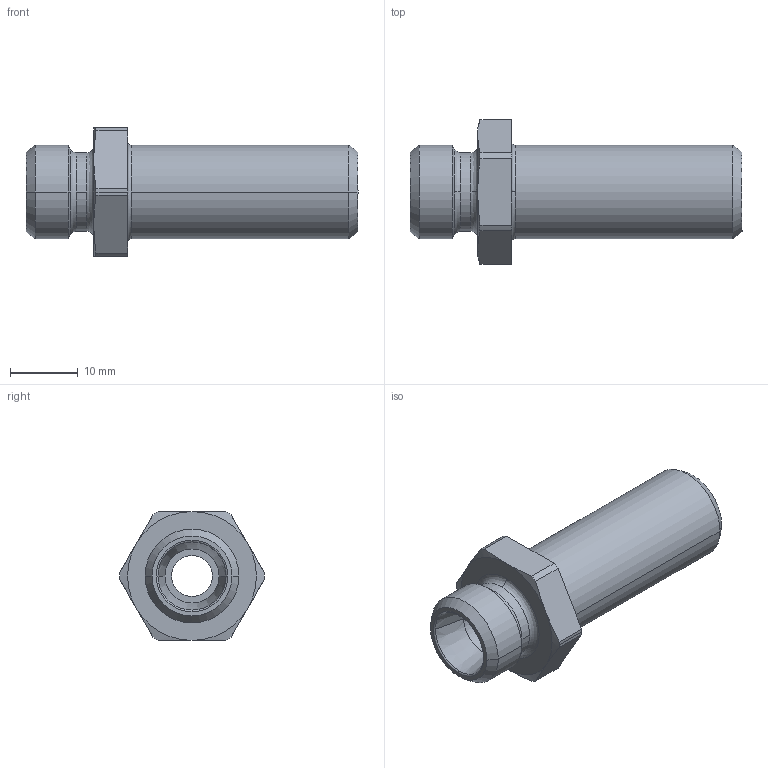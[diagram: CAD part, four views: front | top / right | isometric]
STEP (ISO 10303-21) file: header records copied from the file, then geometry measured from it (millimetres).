
FILE_DESCRIPTION((''),'2;1');
FILE_NAME('103605.stp','2007-10-31T11:42:05',(''),(''),'AutoCAD STEP 2000i','AutoCAD 2000i',', , ');
FILE_SCHEMA(('CONFIG_CONTROL_DESIGN'));
Length unit declared in the file: millimetre
Products named in the file (2): 103605.0; CHIAVE SMUSSX1036#0
Assembly tree (1 placements, depth 2):
  103605.0
    CHIAVE SMUSSX1036#0
Bounding box: 49 x 21.4 x 19 mm (x, y, z)
Volume: 6133.8 mm3; surface area: 3742.1 mm2
Topology: 1 solids, 1 shells, 58 faces, 144 edges, 92 vertices
Faces by surface type: cylinder 20, cone 16, plane 12, bspline 6, torus 4
Entity records: 2103 total; most frequent: CARTESIAN_POINT 584, DIRECTION 330, ORIENTED_EDGE 288, AXIS2_PLACEMENT_3D 144, EDGE_CURVE 144, VERTEX_POINT 92, CIRCLE 90, EDGE_LOOP 64
